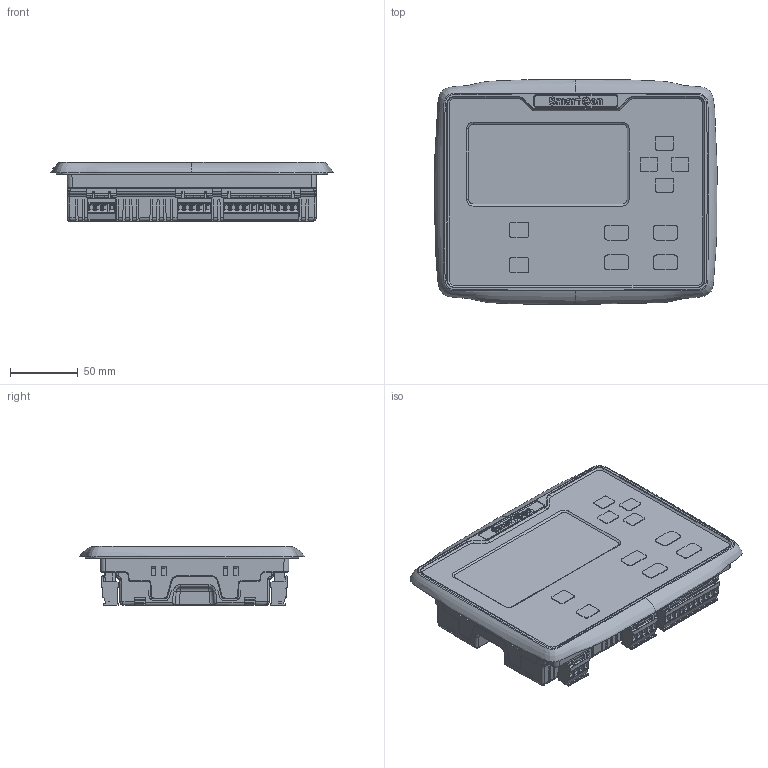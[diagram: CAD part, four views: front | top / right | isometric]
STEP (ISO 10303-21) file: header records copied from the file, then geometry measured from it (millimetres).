
FILE_DESCRIPTION (( 'STEP AP203' ), '1' );
FILE_NAME ('HGM6120TD WZ.STEP', '2025-09-23T00:33:55', ( '' ), ( '' ), 'SwSTEP 2.0', 'SolidWorks 2024', '' );
FILE_SCHEMA (( 'CONFIG_CONTROL_DESIGN' ));
Products named in the file (1): HGM6120TD WZ
Bounding box: 208.35 x 166.13 x 44.1 mm (x, y, z)
Volume: 1021364.4 mm3; surface area: 174044.4 mm2
Topology: 13 solids, 213 shells, 6684 faces, 17312 edges, 11083 vertices
Faces by surface type: plane 5090, cylinder 1304, bspline 142, cone 138, sphere 10
Entity records: 301374 total; most frequent: CARTESIAN_POINT 139328, ORIENTED_EDGE 34604, DIRECTION 32012, EDGE_CURVE 17302, VECTOR 12906, LINE 12906, VERTEX_POINT 11083, AXIS2_PLACEMENT_3D 9553
